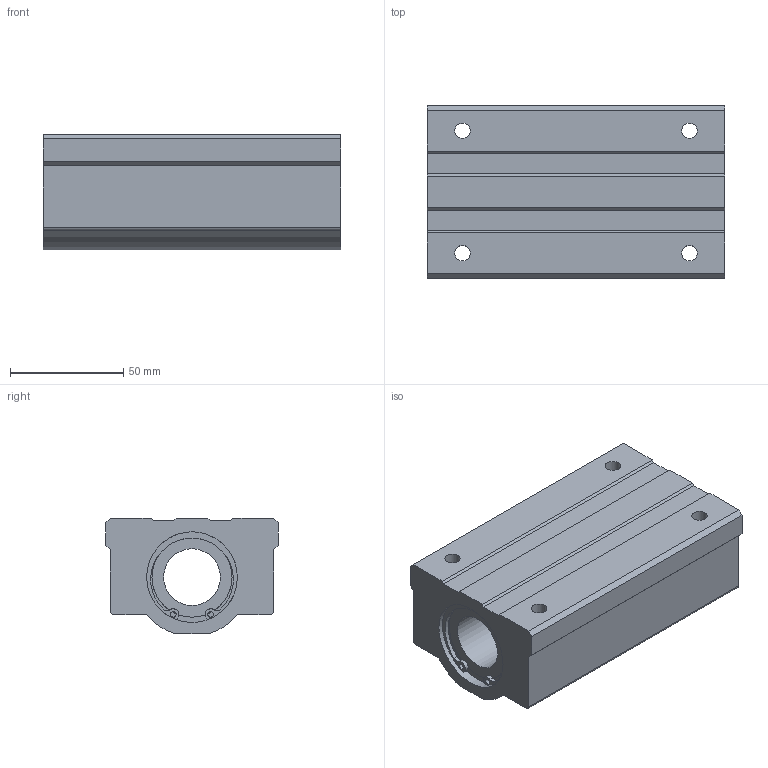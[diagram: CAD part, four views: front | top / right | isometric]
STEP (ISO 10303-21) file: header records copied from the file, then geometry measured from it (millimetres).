
FILE_DESCRIPTION((''),'2;1');
FILE_NAME('D:\製品 (図面)\カタログ用3D\メンテナンスフリー関連\STEP形式\LHW-MF\LHW25MF.stp','2010-06-01T16:10:46',('Tsuchiya'),(''),'Autodesk Inventor 10','Autodesk Inventor 10','');
FILE_SCHEMA(('AUTOMOTIVE_DESIGN { 1 0 10303 214 1 1 1 1 }'));
Length unit declared in the file: millimetre
Products named in the file (1): LHW25MF
Bounding box: 131 x 76 x 51 mm (x, y, z)
Volume: 361571.3 mm3; surface area: 52445.8 mm2
Topology: 1 solids, 3 shells, 81 faces, 215 edges, 138 vertices
Faces by surface type: plane 44, cylinder 20, bspline 17
Full cylindrical faces by diameter (mm): 2.5 x2, 25 x1, 35.3 x2, 38 x2, 40 x4
Entity records: 2552 total; most frequent: CARTESIAN_POINT 599, DIRECTION 414, ORIENTED_EDGE 372, EDGE_CURVE 186, AXIS2_PLACEMENT_3D 163, VERTEX_POINT 126, EDGE_LOOP 118, CIRCLE 98
